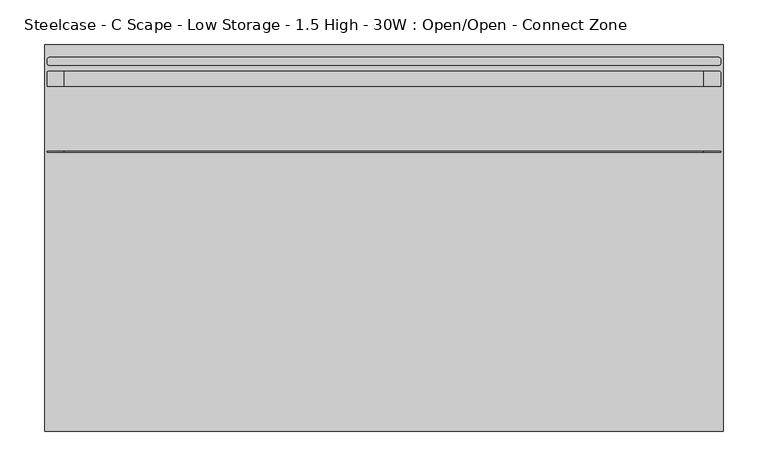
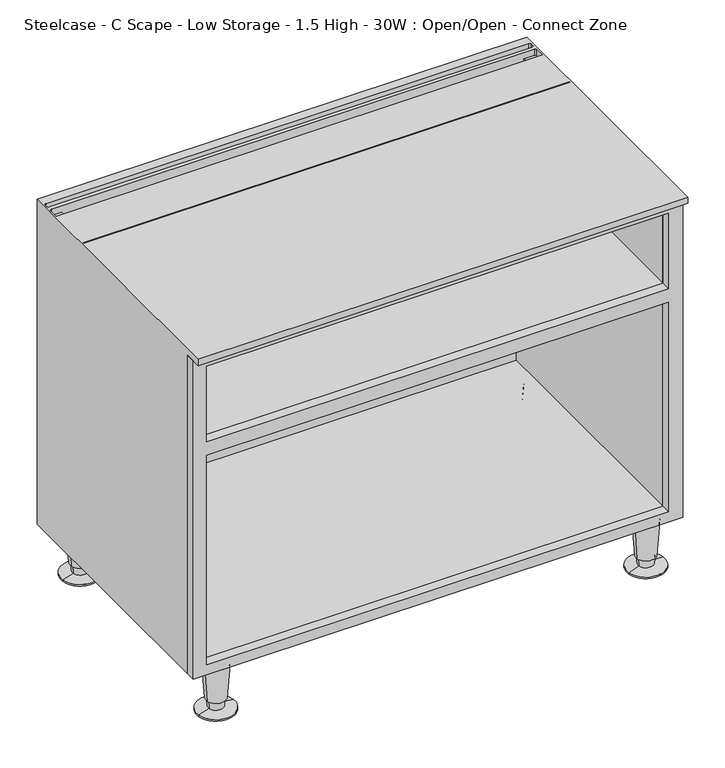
"""IFC4 building model written with IfcOpenShell, lengths in millimetres: furniture geometry, Steelcase - C Scape - Low Storage - 1.5 High - 30W : Open/Open - Connect Zone."""

from ifc_helpers import new_model, si_unit, frame, origin, place, context, project, spatial, polyline, circle_curve, outline, extrude, source, transform, mapped, element, save
from ifc_brep_helpers import plane_surface, cylinder_surface, revolved_surface, advanced_brep


def steelcase_c_scape_low_storage_1_5_high_30w_open_open_connect_0f973177(model_context):
    return source(origin(), model_context, "Body", "SolidModel", [
        extrude(outline(polyline([(599.4499291, 0.0), (76.2, 0.0), (76.2, 760.73), (599.4499291, 760.73), (599.4499291, 320.0585382), (599.4499291, 0.0)]), holes=[polyline([(458.7875121, 21.3382324), (582.9399291, 21.3382324), (582.9399291, 738.7617285), (458.7875121, 738.7617285), (458.7875121, 21.3382324)]), polyline([(436.841904, 21.3256814), (436.841904, 738.7617285), (92.7100024, 738.7617285), (92.7100024, 21.3256814), (436.841904, 21.3256814)])]), frame((0.0, -419.3540543, 0.0), z_axis=(0.0, 1.0, 0.0), x_axis=(0.0, 0.0, 1.0)), (0.0, 0.0, 1.0), 14.9860039),
        advanced_brep(
        [(65.5422821, -397.1702762, 76.2), (27.8805432, -402.9325174, 76.2), (46.7114126, -400.0513968, 76.2), (61.5919341, -397.774679, 19.05), (31.8308912, -402.3281146, 19.05), (59.1623471, -398.1464055, 19.05), (34.2604781, -401.9563882, 19.05), (58.4735776, -398.2517871, 5.7545598), (34.9492476, -401.8510065, 5.7545598), (75.8224611, -395.5974102, 2.5119506), (17.6003641, -404.5053834, 2.5119506), (75.8224611, -395.5974102, 0.0), (17.6003641, -404.5053834, 0.0), (46.7114126, -400.0513968, 0.0)],
        [
            (0, 1, circle_curve(frame((46.7114126, -400.0513968, 76.2), z_axis=(0.0, 0.0, 1.0), x_axis=(0.0, -1.0, 0.0)), 19.05)),
            (1, 2),
            (2, 0),
            (1, 0, circle_curve(frame((46.7114126, -400.0513968, 76.2), z_axis=(0.0, 0.0, 1.0), x_axis=(0.0, -1.0, 0.0)), 19.05)),
            (3, 4, circle_curve(frame((46.7114126, -400.0513968, 19.05), z_axis=(0.0, 0.0, 1.0), x_axis=(0.0, -1.0, 0.0)), 15.0536827)),
            (4, 1),
            (0, 3),
            (4, 3, circle_curve(frame((46.7114126, -400.0513968, 19.05), z_axis=(0.0, 0.0, 1.0), x_axis=(0.0, -1.0, 0.0)), 15.0536827)),
            (5, 6, circle_curve(frame((46.7114126, -400.0513968, 19.05), z_axis=(0.0, 0.0, 1.0), x_axis=(0.0, -1.0, 0.0)), 12.5958232)),
            (6, 4),
            (3, 5),
            (6, 5, circle_curve(frame((46.7114126, -400.0513968, 19.05), z_axis=(0.0, 0.0, 1.0), x_axis=(0.0, -1.0, 0.0)), 12.5958232)),
            (7, 8, circle_curve(frame((46.7114126, -400.0513968, 5.7545598), z_axis=(0.0, 0.0, 1.0), x_axis=(0.0, -1.0, 0.0)), 11.8990387)),
            (8, 6),
            (5, 7),
            (8, 7, circle_curve(frame((46.7114126, -400.0513968, 5.7545598), z_axis=(0.0, 0.0, 1.0), x_axis=(0.0, -1.0, 0.0)), 11.8990387)),
            (9, 10, circle_curve(frame((46.7114126, -400.0513968, 2.5119506), z_axis=(0.0, 0.0, 1.0), x_axis=(0.0, -1.0, 0.0)), 29.4498071)),
            (10, 8),
            (7, 9),
            (10, 9, circle_curve(frame((46.7114126, -400.0513968, 2.5119506), z_axis=(0.0, 0.0, 1.0), x_axis=(0.0, -1.0, 0.0)), 29.4498071)),
            (11, 12, circle_curve(frame((46.7114126, -400.0513968, 0.0), z_axis=(0.0, 0.0, 1.0), x_axis=(0.0, -1.0, 0.0)), 29.4498071)),
            (12, 10),
            (9, 11),
            (12, 11, circle_curve(frame((46.7114126, -400.0513968, 0.0), z_axis=(0.0, 0.0, 1.0), x_axis=(0.0, -1.0, 0.0)), 29.4498071)),
            (13, 12),
            (11, 13),
        ],
        [
            plane_surface(frame((46.7114126, -400.0513968, 76.2), z_axis=(0.0, 0.0, 1.0), x_axis=(0.0, -1.0, 0.0))),
            revolved_surface(polyline([(46.7114126, -419.1013968, 76.2), (46.7114126, -415.1050795, 19.05)]), (46.7114126, -400.0513968, 25.4), (0.0, 0.0, -1.0)),
            plane_surface(frame((46.7114126, -400.0513968, 19.05), z_axis=(0.0, 0.0, -1.0), x_axis=(0.0, -1.0, 0.0))),
            revolved_surface(polyline([(46.7114126, -412.64722, 19.05), (46.7114126, -411.9504355, 5.7545598)]), (46.7114126, -400.0513968, 25.4), (0.0, 0.0, -1.0)),
            revolved_surface(polyline([(46.7114126, -411.9504355, 5.7545598), (46.7114126, -429.5012039, 2.5119506)]), (46.7114126, -400.0513968, 25.4), (0.0, 0.0, -1.0)),
            cylinder_surface(frame((46.7114126, -400.0513968, 25.4), z_axis=(0.0, 0.0, -1.0), x_axis=(0.0, -1.0, 0.0)), 29.4498071),
            plane_surface(frame((46.7114126, -400.0513968, 0.0), z_axis=(0.0, 0.0, -1.0), x_axis=(0.0, -1.0, 0.0))),
        ],
        [
            (0, [[1, 2, 3]]),
            (0, [[4, -3, -2]]),
            (1, [[5, 6, -1, 7]]),
            (1, [[8, -7, -4, -6]]),
            (2, [[9, 10, -5, 11]]),
            (2, [[12, -11, -8, -10]]),
            (3, [[13, 14, -9, 15]]),
            (3, [[16, -15, -12, -14]]),
            (4, [[17, 18, -13, 19]]),
            (4, [[20, -19, -16, -18]]),
            (5, [[21, 22, -17, 23]]),
            (5, [[24, -23, -20, -22]]),
            (6, [[25, -21, 26]]),
            (6, [[-26, -24, -25]]),
        ],
    ),
        advanced_brep(
        [(733.4598695, -397.1702762, 76.2), (695.7981305, -402.9325174, 76.2), (714.629, -400.0513968, 76.2), (729.5095214, -397.774679, 19.05), (699.7484786, -402.3281146, 19.05), (727.0799345, -398.1464055, 19.05), (702.1780655, -401.9563882, 19.05), (726.391165, -398.2517871, 5.7545598), (702.866835, -401.8510065, 5.7545598), (743.7400485, -395.5974102, 2.5119506), (685.5179515, -404.5053834, 2.5119506), (743.7400485, -395.5974102, 0.0), (685.5179515, -404.5053834, 0.0), (714.629, -400.0513968, 0.0)],
        [
            (0, 1, circle_curve(frame((714.629, -400.0513968, 76.2), z_axis=(0.0, 0.0, 1.0), x_axis=(0.0, -1.0, 0.0)), 19.05)),
            (1, 2),
            (2, 0),
            (1, 0, circle_curve(frame((714.629, -400.0513968, 76.2), z_axis=(0.0, 0.0, 1.0), x_axis=(0.0, -1.0, 0.0)), 19.05)),
            (3, 4, circle_curve(frame((714.629, -400.0513968, 19.05), z_axis=(0.0, 0.0, 1.0), x_axis=(0.0, -1.0, 0.0)), 15.0536827)),
            (4, 1),
            (0, 3),
            (4, 3, circle_curve(frame((714.629, -400.0513968, 19.05), z_axis=(0.0, 0.0, 1.0), x_axis=(0.0, -1.0, 0.0)), 15.0536827)),
            (5, 6, circle_curve(frame((714.629, -400.0513968, 19.05), z_axis=(0.0, 0.0, 1.0), x_axis=(0.0, -1.0, 0.0)), 12.5958232)),
            (6, 4),
            (3, 5),
            (6, 5, circle_curve(frame((714.629, -400.0513968, 19.05), z_axis=(0.0, 0.0, 1.0), x_axis=(0.0, -1.0, 0.0)), 12.5958232)),
            (7, 8, circle_curve(frame((714.629, -400.0513968, 5.7545598), z_axis=(0.0, 0.0, 1.0), x_axis=(0.0, -1.0, 0.0)), 11.8990387)),
            (8, 6),
            (5, 7),
            (8, 7, circle_curve(frame((714.629, -400.0513968, 5.7545598), z_axis=(0.0, 0.0, 1.0), x_axis=(0.0, -1.0, 0.0)), 11.8990387)),
            (9, 10, circle_curve(frame((714.629, -400.0513968, 2.5119506), z_axis=(0.0, 0.0, 1.0), x_axis=(0.0, -1.0, 0.0)), 29.4498071)),
            (10, 8),
            (7, 9),
            (10, 9, circle_curve(frame((714.629, -400.0513968, 2.5119506), z_axis=(0.0, 0.0, 1.0), x_axis=(0.0, -1.0, 0.0)), 29.4498071)),
            (11, 12, circle_curve(frame((714.629, -400.0513968, 0.0), z_axis=(0.0, 0.0, 1.0), x_axis=(0.0, -1.0, 0.0)), 29.4498071)),
            (12, 10),
            (9, 11),
            (12, 11, circle_curve(frame((714.629, -400.0513968, 0.0), z_axis=(0.0, 0.0, 1.0), x_axis=(0.0, -1.0, 0.0)), 29.4498071)),
            (13, 12),
            (11, 13),
        ],
        [
            plane_surface(frame((714.629, -400.0513968, 76.2), z_axis=(0.0, 0.0, 1.0), x_axis=(0.0, -1.0, 0.0))),
            revolved_surface(polyline([(714.629, -419.1013968, 76.2), (714.629, -415.1050795, 19.05)]), (714.629, -400.0513968, 25.4), (0.0, 0.0, -1.0)),
            plane_surface(frame((714.629, -400.0513968, 19.05), z_axis=(0.0, 0.0, -1.0), x_axis=(0.0, -1.0, 0.0))),
            revolved_surface(polyline([(714.629, -412.64722, 19.05), (714.629, -411.9504355, 5.7545598)]), (714.629, -400.0513968, 25.4), (0.0, 0.0, -1.0)),
            revolved_surface(polyline([(714.629, -411.9504355, 5.7545598), (714.629, -429.5012039, 2.5119506)]), (714.629, -400.0513968, 25.4), (0.0, 0.0, -1.0)),
            cylinder_surface(frame((714.629, -400.0513968, 25.4), z_axis=(0.0, 0.0, -1.0), x_axis=(0.0, -1.0, 0.0)), 29.4498071),
            plane_surface(frame((714.629, -400.0513968, 0.0), z_axis=(0.0, 0.0, -1.0), x_axis=(0.0, -1.0, 0.0))),
        ],
        [
            (0, [[1, 2, 3]]),
            (0, [[4, -3, -2]]),
            (1, [[5, 6, -1, 7]]),
            (1, [[8, -7, -4, -6]]),
            (2, [[9, 10, -5, 11]]),
            (2, [[12, -11, -8, -10]]),
            (3, [[13, 14, -9, 15]]),
            (3, [[16, -15, -12, -14]]),
            (4, [[17, 18, -13, 19]]),
            (4, [[20, -19, -16, -18]]),
            (5, [[21, 22, -17, 23]]),
            (5, [[24, -23, -20, -22]]),
            (6, [[25, -21, 26]]),
            (6, [[-26, -24, -25]]),
        ],
    ),
        advanced_brep(
        [(733.4598695, -31.5218435, 76.2), (695.7981305, -37.2840847, 76.2), (714.629, -34.4029641, 76.2), (729.5095214, -32.1262463, 19.05), (699.7484786, -36.6796819, 19.05), (727.0799345, -32.4979728, 19.05), (702.1780655, -36.3079555, 19.05), (726.391165, -32.6033544, 5.7545598), (702.866835, -36.2025738, 5.7545598), (743.7400485, -29.9489775, 2.5119506), (685.5179515, -38.8569507, 2.5119506), (743.7400485, -29.9489775, 0.0), (685.5179515, -38.8569507, 0.0), (714.629, -34.4029641, 0.0)],
        [
            (0, 1, circle_curve(frame((714.629, -34.4029641, 76.2), z_axis=(0.0, 0.0, 1.0), x_axis=(0.0, -1.0, 0.0)), 19.05)),
            (1, 2),
            (2, 0),
            (1, 0, circle_curve(frame((714.629, -34.4029641, 76.2), z_axis=(0.0, 0.0, 1.0), x_axis=(0.0, -1.0, 0.0)), 19.05)),
            (3, 4, circle_curve(frame((714.629, -34.4029641, 19.05), z_axis=(0.0, 0.0, 1.0), x_axis=(0.0, -1.0, 0.0)), 15.0536827)),
            (4, 1),
            (0, 3),
            (4, 3, circle_curve(frame((714.629, -34.4029641, 19.05), z_axis=(0.0, 0.0, 1.0), x_axis=(0.0, -1.0, 0.0)), 15.0536827)),
            (5, 6, circle_curve(frame((714.629, -34.4029641, 19.05), z_axis=(0.0, 0.0, 1.0), x_axis=(0.0, -1.0, 0.0)), 12.5958232)),
            (6, 4),
            (3, 5),
            (6, 5, circle_curve(frame((714.629, -34.4029641, 19.05), z_axis=(0.0, 0.0, 1.0), x_axis=(0.0, -1.0, 0.0)), 12.5958232)),
            (7, 8, circle_curve(frame((714.629, -34.4029641, 5.7545598), z_axis=(0.0, 0.0, 1.0), x_axis=(0.0, -1.0, 0.0)), 11.8990387)),
            (8, 6),
            (5, 7),
            (8, 7, circle_curve(frame((714.629, -34.4029641, 5.7545598), z_axis=(0.0, 0.0, 1.0), x_axis=(0.0, -1.0, 0.0)), 11.8990387)),
            (9, 10, circle_curve(frame((714.629, -34.4029641, 2.5119506), z_axis=(0.0, 0.0, 1.0), x_axis=(0.0, -1.0, 0.0)), 29.4498071)),
            (10, 8),
            (7, 9),
            (10, 9, circle_curve(frame((714.629, -34.4029641, 2.5119506), z_axis=(0.0, 0.0, 1.0), x_axis=(0.0, -1.0, 0.0)), 29.4498071)),
            (11, 12, circle_curve(frame((714.629, -34.4029641, 0.0), z_axis=(0.0, 0.0, 1.0), x_axis=(0.0, -1.0, 0.0)), 29.4498071)),
            (12, 10),
            (9, 11),
            (12, 11, circle_curve(frame((714.629, -34.4029641, 0.0), z_axis=(0.0, 0.0, 1.0), x_axis=(0.0, -1.0, 0.0)), 29.4498071)),
            (13, 12),
            (11, 13),
        ],
        [
            plane_surface(frame((714.629, -34.4029641, 76.2), z_axis=(0.0, 0.0, 1.0), x_axis=(0.0, -1.0, 0.0))),
            revolved_surface(polyline([(714.629, -53.4529641, 76.2), (714.629, -49.4566468, 19.05)]), (714.629, -34.4029641, 25.4), (0.0, 0.0, -1.0)),
            plane_surface(frame((714.629, -34.4029641, 19.05), z_axis=(0.0, 0.0, -1.0), x_axis=(0.0, -1.0, 0.0))),
            revolved_surface(polyline([(714.629, -46.9987873, 19.05), (714.629, -46.3020028, 5.7545598)]), (714.629, -34.4029641, 25.4), (0.0, 0.0, -1.0)),
            revolved_surface(polyline([(714.629, -46.3020028, 5.7545598), (714.629, -63.8527712, 2.5119506)]), (714.629, -34.4029641, 25.4), (0.0, 0.0, -1.0)),
            cylinder_surface(frame((714.629, -34.4029641, 25.4), z_axis=(0.0, 0.0, -1.0), x_axis=(0.0, -1.0, 0.0)), 29.4498071),
            plane_surface(frame((714.629, -34.4029641, 0.0), z_axis=(0.0, 0.0, -1.0), x_axis=(0.0, -1.0, 0.0))),
        ],
        [
            (0, [[1, 2, 3]]),
            (0, [[4, -3, -2]]),
            (1, [[5, 6, -1, 7]]),
            (1, [[8, -7, -4, -6]]),
            (2, [[9, 10, -5, 11]]),
            (2, [[12, -11, -8, -10]]),
            (3, [[13, 14, -9, 15]]),
            (3, [[16, -15, -12, -14]]),
            (4, [[17, 18, -13, 19]]),
            (4, [[20, -19, -16, -18]]),
            (5, [[21, 22, -17, 23]]),
            (5, [[24, -23, -20, -22]]),
            (6, [[25, -21, 26]]),
            (6, [[-26, -24, -25]]),
        ],
    ),
        advanced_brep(
        [(65.5422821, -31.5218435, 76.2), (27.8805432, -37.2840847, 76.2), (46.7114126, -34.4029641, 76.2), (61.5919341, -32.1262463, 19.05), (31.8308912, -36.6796819, 19.05), (59.1623471, -32.4979728, 19.05), (34.2604781, -36.3079555, 19.05), (58.4735776, -32.6033544, 5.7545598), (34.9492476, -36.2025738, 5.7545598), (75.8224611, -29.9489775, 2.5119506), (17.6003641, -38.8569507, 2.5119506), (75.8224611, -29.9489775, 0.0), (17.6003641, -38.8569507, 0.0), (46.7114126, -34.4029641, 0.0)],
        [
            (0, 1, circle_curve(frame((46.7114126, -34.4029641, 76.2), z_axis=(0.0, 0.0, 1.0), x_axis=(0.0, -1.0, 0.0)), 19.05)),
            (1, 2),
            (2, 0),
            (1, 0, circle_curve(frame((46.7114126, -34.4029641, 76.2), z_axis=(0.0, 0.0, 1.0), x_axis=(0.0, -1.0, 0.0)), 19.05)),
            (3, 4, circle_curve(frame((46.7114126, -34.4029641, 19.05), z_axis=(0.0, 0.0, 1.0), x_axis=(0.0, -1.0, 0.0)), 15.0536827)),
            (4, 1),
            (0, 3),
            (4, 3, circle_curve(frame((46.7114126, -34.4029641, 19.05), z_axis=(0.0, 0.0, 1.0), x_axis=(0.0, -1.0, 0.0)), 15.0536827)),
            (5, 6, circle_curve(frame((46.7114126, -34.4029641, 19.05), z_axis=(0.0, 0.0, 1.0), x_axis=(0.0, -1.0, 0.0)), 12.5958232)),
            (6, 4),
            (3, 5),
            (6, 5, circle_curve(frame((46.7114126, -34.4029641, 19.05), z_axis=(0.0, 0.0, 1.0), x_axis=(0.0, -1.0, 0.0)), 12.5958232)),
            (7, 8, circle_curve(frame((46.7114126, -34.4029641, 5.7545598), z_axis=(0.0, 0.0, 1.0), x_axis=(0.0, -1.0, 0.0)), 11.8990387)),
            (8, 6),
            (5, 7),
            (8, 7, circle_curve(frame((46.7114126, -34.4029641, 5.7545598), z_axis=(0.0, 0.0, 1.0), x_axis=(0.0, -1.0, 0.0)), 11.8990387)),
            (9, 10, circle_curve(frame((46.7114126, -34.4029641, 2.5119506), z_axis=(0.0, 0.0, 1.0), x_axis=(0.0, -1.0, 0.0)), 29.4498071)),
            (10, 8),
            (7, 9),
            (10, 9, circle_curve(frame((46.7114126, -34.4029641, 2.5119506), z_axis=(0.0, 0.0, 1.0), x_axis=(0.0, -1.0, 0.0)), 29.4498071)),
            (11, 12, circle_curve(frame((46.7114126, -34.4029641, 0.0), z_axis=(0.0, 0.0, 1.0), x_axis=(0.0, -1.0, 0.0)), 29.4498071)),
            (12, 10),
            (9, 11),
            (12, 11, circle_curve(frame((46.7114126, -34.4029641, 0.0), z_axis=(0.0, 0.0, 1.0), x_axis=(0.0, -1.0, 0.0)), 29.4498071)),
            (13, 12),
            (11, 13),
        ],
        [
            plane_surface(frame((46.7114126, -34.4029641, 76.2), z_axis=(0.0, 0.0, 1.0), x_axis=(0.0, -1.0, 0.0))),
            revolved_surface(polyline([(46.7114126, -53.4529641, 76.2), (46.7114126, -49.4566468, 19.05)]), (46.7114126, -34.4029641, 25.4), (0.0, 0.0, -1.0)),
            plane_surface(frame((46.7114126, -34.4029641, 19.05), z_axis=(0.0, 0.0, -1.0), x_axis=(0.0, -1.0, 0.0))),
            revolved_surface(polyline([(46.7114126, -46.9987873, 19.05), (46.7114126, -46.3020028, 5.7545598)]), (46.7114126, -34.4029641, 25.4), (0.0, 0.0, -1.0)),
            revolved_surface(polyline([(46.7114126, -46.3020028, 5.7545598), (46.7114126, -63.8527712, 2.5119506)]), (46.7114126, -34.4029641, 25.4), (0.0, 0.0, -1.0)),
            cylinder_surface(frame((46.7114126, -34.4029641, 25.4), z_axis=(0.0, 0.0, -1.0), x_axis=(0.0, -1.0, 0.0)), 29.4498071),
            plane_surface(frame((46.7114126, -34.4029641, 0.0), z_axis=(0.0, 0.0, -1.0), x_axis=(0.0, -1.0, 0.0))),
        ],
        [
            (0, [[1, 2, 3]]),
            (0, [[4, -3, -2]]),
            (1, [[5, 6, -1, 7]]),
            (1, [[8, -7, -4, -6]]),
            (2, [[9, 10, -5, 11]]),
            (2, [[12, -11, -8, -10]]),
            (3, [[13, 14, -9, 15]]),
            (3, [[16, -15, -12, -14]]),
            (4, [[17, 18, -13, 19]]),
            (4, [[20, -19, -16, -18]]),
            (5, [[21, 22, -17, 23]]),
            (5, [[24, -23, -20, -22]]),
            (6, [[25, -21, 26]]),
            (6, [[-26, -24, -25]]),
        ],
    ),
        advanced_brep(
        [(757.9272317, -120.6444193, 609.6), (757.9272317, -119.3775195, 609.6), (757.9272317, -119.3775195, 599.4499291), (757.9272317, -120.6444193, 599.4499291), (757.9272317, -46.4703418, 609.6), (757.9272317, -32.274699, 609.6), (757.9272317, -32.274699, 599.4499291), (757.9272317, -46.4703418, 599.4499291), (757.9272317, -20.3138654, 609.6), (757.9272317, -17.0388453, 609.6), (757.9272317, -17.0388453, 599.4499291), (757.9272317, -20.3138654, 599.4499291), (760.73, 0.0055807, 609.6), (760.73, -433.07, 609.6), (760.73, -433.07, 599.4499291), (760.73, -404.3680504, 599.4499291), (760.73, -404.3680504, 76.2), (760.73, 0.0, 76.2), (0.0, -433.07, 609.6), (-0.012551, 0.0055807, 609.6), (755.2308823, -29.5783496, 609.6), (2.7826272, -46.4703418, 609.6), (2.7826272, -32.0458511, 609.6), (5.2501287, -29.5783496, 609.6), (754.9507358, -23.2903613, 609.6), (5.5670648, -23.2903613, 609.6), (2.7826272, -20.5059237, 609.6), (2.7826272, -17.0388453, 609.6), (5.4794022, -14.3420703, 609.6), (755.2304567, -14.3420703, 609.6), (2.7826272, -119.3775195, 609.6), (2.7826272, -120.6444193, 609.6), (0.0, 0.0055807, 76.2), (495.6775189, 0.0055807, 466.2677968), (264.4174811, 0.0055807, 466.2677968), (264.4174811, 0.0055807, 432.6382043), (380.0475, 0.0055807, 432.6382043), (495.6775189, 0.0055807, 432.6382043), (495.6775189, -9.5194193, 466.2677968), (264.4174811, -9.5194193, 466.2677968), (495.6775189, -9.5194193, 450.8499879), (264.4174811, -9.5194193, 450.8499879), (5.2501287, -29.5783496, 599.4499291), (21.3256814, -29.5783496, 599.4499291), (21.3256814, -29.5783496, 458.7875121), (738.7491775, -29.5783496, 458.7875121), (738.7491775, -29.5783496, 599.4499291), (755.2308823, -29.5783496, 599.4499291), (738.7491775, -119.3775195, 599.4499291), (21.3256814, -119.3775195, 599.4499291), (21.3256814, -46.4703418, 599.4499291), (738.7491775, -46.4703418, 599.4499291), (754.9507358, -23.2903613, 599.4499291), (5.5670648, -23.2903613, 599.4499291), (2.7826272, -20.5059237, 599.4499291), (2.7826272, -32.0458511, 599.4499291), (2.7826272, -46.4703418, 599.4499291), (2.7826272, -119.3775195, 599.4499291), (5.4794022, -14.3420703, 599.4499291), (755.2304567, -14.3420703, 599.4499291), (2.7826272, -17.0388453, 599.4499291), (21.3256814, -120.6444193, 599.4499291), (2.7826272, -120.6444193, 599.4499291), (738.7491775, -120.6444193, 599.4499291), (21.3256814, -404.3680504, 92.7100024), (738.7491775, -404.3680504, 92.7100024), (738.7491775, -9.5194193, 92.7100024), (21.3256814, -9.5194193, 92.7100024), (0.0, -404.3680504, 76.2), (0.0, -404.3680504, 599.4499291), (0.0, -433.07, 599.4499291), (738.7491775, -404.3680504, 599.4499291), (738.7491775, -404.3680504, 458.7875121), (21.3256814, -404.3680504, 458.7875121), (21.3256814, -404.3680504, 599.4499291), (21.3256814, -404.3680504, 450.8499879), (738.7491775, -404.3680504, 450.8499879), (21.3256814, -126.9863574, 599.4499291), (738.7491775, -126.9863574, 599.4499291), (21.3256814, -126.9863574, 458.7875121), (738.7491775, -126.9863574, 458.7875121), (738.7491775, -120.6444193, 458.7875121), (21.3256814, -120.6444193, 458.7875121), (21.3256814, -9.5194193, 450.8499879), (738.7491775, -9.5194193, 450.8499879), (495.6775189, -9.5194193, 432.6382043), (380.0475, -9.5194193, 432.6382043), (264.4174811, -9.5194193, 432.6382043)],
        [
            (0, 1),
            (1, 2),
            (2, 3),
            (3, 0),
            (4, 5),
            (5, 6),
            (6, 7),
            (7, 4),
            (8, 9),
            (9, 10),
            (10, 11),
            (11, 8),
            (12, 13),
            (13, 14),
            (14, 15),
            (15, 16),
            (16, 17),
            (17, 12),
            (18, 13),
            (12, 19),
            (19, 18),
            (20, 5, circle_curve(frame((755.2308823, -32.274699, 609.6), z_axis=(0.0, 0.0, -1.0), x_axis=(1.0, 0.0, 0.0)), 2.6963494)),
            (4, 21),
            (21, 22),
            (22, 23, circle_curve(frame((5.2501287, -32.0458511, 609.6), z_axis=(0.0, 0.0, -1.0), x_axis=(1.0, 0.0, 0.0)), 2.4675015)),
            (23, 20),
            (8, 24, circle_curve(frame((754.9507358, -20.3138654, 609.6), z_axis=(0.0, 0.0, -1.0), x_axis=(1.0, 0.0, 0.0)), 2.9764959)),
            (24, 25),
            (25, 26, circle_curve(frame((5.5670648, -20.5059237, 609.6), z_axis=(0.0, 0.0, -1.0), x_axis=(1.0, 0.0, 0.0)), 2.7844376)),
            (26, 27),
            (27, 28, circle_curve(frame((5.4794022, -17.0388453, 609.6), z_axis=(0.0, 0.0, -1.0), x_axis=(1.0, 0.0, 0.0)), 2.696775)),
            (28, 29),
            (29, 9, circle_curve(frame((755.2304567, -17.0388453, 609.6), z_axis=(0.0, 0.0, -1.0), x_axis=(1.0, 0.0, 0.0)), 2.696775)),
            (30, 1),
            (0, 31),
            (31, 30),
            (17, 32),
            (32, 19),
            (33, 34),
            (34, 35),
            (35, 36),
            (36, 37),
            (37, 33),
            (33, 38),
            (38, 39),
            (39, 34),
            (38, 40),
            (40, 41),
            (41, 39),
            (23, 42),
            (42, 43),
            (43, 44),
            (44, 45),
            (45, 46),
            (46, 47),
            (47, 20),
            (48, 49),
            (49, 50),
            (50, 51),
            (51, 48),
            (47, 6, circle_curve(frame((755.2308823, -32.274699, 599.4499291), z_axis=(0.0, 0.0, -1.0), x_axis=(1.0, 0.0, 0.0)), 2.6963494)),
            (11, 52, circle_curve(frame((754.9507358, -20.3138654, 599.4499291), z_axis=(0.0, 0.0, -1.0), x_axis=(1.0, 0.0, 0.0)), 2.9764959)),
            (52, 24),
            (52, 53),
            (53, 25),
            (53, 54, circle_curve(frame((5.5670648, -20.5059237, 599.4499291), z_axis=(0.0, 0.0, -1.0), x_axis=(1.0, 0.0, 0.0)), 2.7844376)),
            (54, 26),
            (22, 55),
            (55, 42, circle_curve(frame((5.2501287, -32.0458511, 599.4499291), z_axis=(0.0, 0.0, -1.0), x_axis=(1.0, 0.0, 0.0)), 2.4675015)),
            (7, 51),
            (50, 56),
            (56, 21),
            (30, 57),
            (57, 49),
            (48, 2),
            (28, 58),
            (58, 59),
            (59, 29),
            (59, 10, circle_curve(frame((755.2304567, -17.0388453, 599.4499291), z_axis=(0.0, 0.0, -1.0), x_axis=(1.0, 0.0, 0.0)), 2.696775)),
            (27, 60),
            (60, 58, circle_curve(frame((5.4794022, -17.0388453, 599.4499291), z_axis=(0.0, 0.0, -1.0), x_axis=(1.0, 0.0, 0.0)), 2.696775)),
            (61, 49),
            (57, 62),
            (62, 61),
            (48, 63),
            (63, 3),
            (60, 54),
            (50, 43),
            (55, 56),
            (46, 51),
            (64, 65),
            (65, 66),
            (66, 67),
            (67, 64),
            (16, 68),
            (68, 32),
            (68, 69),
            (69, 70),
            (70, 18),
            (15, 71),
            (71, 72),
            (72, 73),
            (73, 74),
            (74, 69),
            (64, 75),
            (75, 76),
            (76, 65),
            (70, 14),
            (74, 77),
            (77, 78),
            (78, 71),
            (77, 79),
            (79, 80),
            (80, 78),
            (63, 81),
            (81, 82),
            (82, 61),
            (62, 31),
            (44, 82),
            (81, 45),
            (79, 73),
            (72, 80),
            (75, 83),
            (83, 41),
            (40, 84),
            (84, 76),
            (67, 83),
            (84, 66),
            (85, 86),
            (86, 87),
            (87, 41),
            (40, 85),
            (37, 85),
            (36, 86),
            (35, 87),
        ],
        [
            plane_surface(frame((757.9272317, -120.6444193, 609.6), z_axis=(-1.0, 0.0, 0.0), x_axis=(0.0, -1.4185860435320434e-12, 1.0))),
            plane_surface(frame((760.73, -120.6444193, 609.6), z_axis=(1.0, 0.0, 0.0), x_axis=(0.0, 1.4185860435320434e-12, -1.0))),
            plane_surface(frame((757.9272317, -120.6444193, 609.6), z_axis=(0.0, 0.0, 1.0), x_axis=(1.0, 0.0, 0.0))),
            plane_surface(frame((757.9272317, 0.0055807, 609.6), z_axis=(0.0, 1.0, 0.0), x_axis=(1.0, 0.0, 0.0))),
            plane_surface(frame((757.9272317, 0.0055807, 466.2677968), z_axis=(0.0, 0.0, -1.0), x_axis=(1.0, 0.0, 0.0))),
            plane_surface(frame((757.9272317, -9.5194193, 466.2677968), z_axis=(0.0, 1.0, 0.0), x_axis=(1.0, 0.0, 0.0))),
            plane_surface(frame((757.9272317, -29.5783496, 458.7875121), z_axis=(0.0, -1.0, 0.0), x_axis=(1.0, 0.0, 0.0))),
            plane_surface(frame((757.9272317, -29.5783496, 599.4499291), z_axis=(0.0, 0.0, -1.0), x_axis=(1.0, 0.0, 0.0))),
            revolved_surface(polyline([(757.9272317, -32.274699, 599.4499291), (757.9272317, -32.274699, 609.6)]), (755.2308823, -32.274699, 599.4499291), (0.0, 0.0, -1.0)),
            revolved_surface(polyline([(757.9272317, -20.3138654, 599.4499291), (757.9272317, -20.3138654, 609.6)]), (754.9507358, -20.3138654, 599.4499291), (0.0, 0.0, -1.0)),
            plane_surface(frame((754.9507358, -23.2903613, 609.6), z_axis=(0.0, 1.0, 0.0), x_axis=(0.0, 0.0, -1.0))),
            revolved_surface(polyline([(8.3515024, -20.5059237, 599.4499291), (8.3515024, -20.5059237, 609.6)]), (5.5670648, -20.5059237, 599.4499291), (0.0, 0.0, -1.0)),
            revolved_surface(polyline([(7.7176302, -32.0458511, 599.4499291), (7.7176302, -32.0458511, 609.6)]), (5.2501287, -32.0458511, 599.4499291), (0.0, 0.0, -1.0)),
            plane_surface(frame((757.9272317, -46.4703418, 609.6), z_axis=(0.0, 1.0, 0.0), x_axis=(0.0, 0.0, -1.0))),
            plane_surface(frame((2.7826272, -119.3775195, 609.6), z_axis=(0.0, -1.0, 0.0), x_axis=(0.0, 0.0, -1.0))),
            plane_surface(frame((5.4794022, -14.3420703, 609.6), z_axis=(0.0, -1.0, 0.0), x_axis=(0.0, 0.0, -1.0))),
            revolved_surface(polyline([(757.9272317, -17.0388453, 599.4499291), (757.9272317, -17.0388453, 609.6)]), (755.2304567, -17.0388453, 41.6295811), (0.0, 0.0, -1.0)),
            revolved_surface(polyline([(8.1761772, -17.0388453, 599.4499291), (8.1761772, -17.0388453, 609.6)]), (5.4794022, -17.0388453, 41.6295811), (0.0, 0.0, -1.0)),
            plane_surface(frame((757.9272317, 0.0055807, 599.4499291), z_axis=(0.0, 0.0, 1.0), x_axis=(-1.0, 0.0, 0.0))),
            plane_surface(frame((0.0, 0.0, 92.7100024), z_axis=(0.0, 0.0, 1.0), x_axis=(-1.0, 0.0, 0.0))),
            plane_surface(frame((0.0, 0.0, 76.2), z_axis=(0.0, 0.0, -1.0), x_axis=(1.0, 0.0, 0.0))),
            plane_surface(frame((0.0, 0.0, 92.7100024), z_axis=(-1.0, 0.0, 0.0), x_axis=(0.0, 0.0, -1.0))),
            plane_surface(frame((0.0, -404.3680504, 92.7100024), z_axis=(0.0, -1.0, 0.0), x_axis=(0.0, 0.0, -1.0))),
            plane_surface(frame((760.73, -433.07, 609.6), z_axis=(0.0, -1.0, 0.0), x_axis=(-1.0, 0.0, 0.0))),
            plane_surface(frame((760.73, -433.07, 599.4499291), z_axis=(0.0, 0.0, -1.0), x_axis=(-1.0, 0.0, 0.0))),
            plane_surface(frame((760.73, -126.9863574, 599.4499291), z_axis=(0.0, -1.0, 0.0), x_axis=(-1.0, 0.0, 0.0))),
            plane_surface(frame((760.73, -120.6444193, 457.1999955), z_axis=(0.0, 1.0, 0.0), x_axis=(-1.0, 0.0, 0.0))),
            plane_surface(frame((0.0, -9.5194193, 458.7875121), z_axis=(0.0, 0.0, 1.0), x_axis=(-1.0, 0.0, 0.0))),
            plane_surface(frame((0.0, -9.5194193, 450.8499879), z_axis=(0.0, 0.0, -1.0), x_axis=(1.0, 0.0, 0.0))),
            plane_surface(frame((21.3256814, -404.3680504, 599.4499291), z_axis=(1.0, 0.0, 0.0), x_axis=(0.0, 0.0, -1.0))),
            plane_surface(frame((738.7491775, -9.5194193, 599.4499291), z_axis=(-1.0, 0.0, 0.0), x_axis=(0.0, 0.0, -1.0))),
            plane_surface(frame((2.7826272, -120.6444193, 599.4499291), z_axis=(1.0, 0.0, 0.0), x_axis=(0.0, 1.0, 0.0))),
            plane_surface(frame((495.6775189, -9.5194193, 459.9177968), z_axis=(0.0, -1.0, 0.0), x_axis=(0.0, 0.0, -1.0))),
            plane_surface(frame((495.6775189, -9.5194193, 466.2677968), z_axis=(-1.0, 0.0, 0.0), x_axis=(0.0, 1.0, 0.0))),
            plane_surface(frame((495.6775189, -9.5194193, 432.6382043), z_axis=(0.0, 0.0, 1.0), x_axis=(0.0, 1.0, 0.0))),
            plane_surface(frame((380.0475, -9.5194193, 432.6382043), z_axis=(0.0, 0.0, 1.0), x_axis=(0.0, 1.0, 0.0))),
            plane_surface(frame((264.4174811, -9.5194193, 432.6382043), z_axis=(1.0, 0.0, 0.0), x_axis=(0.0, 1.0, 0.0))),
        ],
        [
            (0, [[1, 2, 3, 4]]),
            (0, [[5, 6, 7, 8]]),
            (0, [[9, 10, 11, 12]]),
            (1, [[13, 14, 15, 16, 17, 18]]),
            (2, [[19, -13, 20, 21], [22, -5, 23, 24, 25, 26], [27, 28, 29, 30, 31, 32, 33, -9], [34, -1, 35, 36]]),
            (3, [[-18, 37, 38, -20], [39, 40, 41, 42, 43]]),
            (4, [[-39, 44, 45, 46]]),
            (5, [[-45, 47, 48, 49]]),
            (6, [[-26, 50, 51, 52, 53, 54, 55, 56]]),
            (7, [[57, 58, 59, 60]]),
            (8, [[-22, -56, 61, -6]]),
            (9, [[-27, -12, 62, 63]]),
            (10, [[-28, -63, 64, 65]]),
            (11, [[-29, -65, 66, 67]]),
            (12, [[-25, 68, 69, -50]]),
            (13, [[-23, -8, 70, -59, 71, 72]]),
            (14, [[-34, 73, 74, -57, 75, -2]]),
            (15, [[-32, 76, 77, 78]]),
            (16, [[-33, -78, 79, -10]]),
            (17, [[-31, 80, 81, -76]]),
            (18, [[82, -74, 83, 84]]),
            (18, [[85, 86, -3, -75]]),
            (18, [[-11, -79, -77, -81, 87, -66, -64, -62]]),
            (18, [[88, -51, -69, 89, -71]]),
            (18, [[90, -70, -7, -61, -55]]),
            (19, [[91, 92, 93, 94]]),
            (20, [[-17, 95, 96, -37]]),
            (21, [[-38, -96, 97, 98, 99, -21]]),
            (22, [[-95, -16, 100, 101, 102, 103, 104, -97], [-91, 105, 106, 107]]),
            (23, [[-14, -19, -99, 108]]),
            (24, [[-108, -98, -104, 109, 110, 111, -100, -15]]),
            (25, [[-110, 112, 113, 114]]),
            (26, [[-4, -86, 115, 116, 117, -84, 118, -35]]),
            (27, [[-53, 119, -116, 120]]),
            (27, [[-113, 121, -102, 122]]),
            (28, [[-106, 123, 124, -48, 125, 126]]),
            (29, [[-103, -121, -112, -109]]),
            (29, [[-105, -94, 127, -123]]),
            (29, [[-88, -58, -82, -117, -119, -52]]),
            (30, [[-101, -111, -114, -122]]),
            (30, [[-107, -126, 128, -92]]),
            (30, [[-90, -54, -120, -115, -85, -60]]),
            (31, [[-24, -72, -89, -68]]),
            (31, [[-30, -67, -87, -80]]),
            (31, [[-36, -118, -83, -73]]),
            (32, [[129, 130, 131, -124, -127, -93, -128, -125, 132]]),
            (33, [[-43, 133, -132, -47, -44]]),
            (34, [[-129, -133, -42, 134]]),
            (35, [[-130, -134, -41, 135]]),
            (36, [[-40, -46, -49, -131, -135]]),
        ],
    ),
    ])


if __name__ == "__main__":
    model = new_model("IFC4")
    model_context = context("Model", 3, world=origin())
    ifc_project = project(units=[si_unit("LENGTHUNIT", "METRE", prefix="MILLI")], contexts=[model_context])
    site = spatial("IfcSite", under=ifc_project)
    building = spatial("IfcBuilding", under=site)
    placement = place(None, origin())
    steelcase_c_scape_low_storage_1_5_high_30w_open_open_connect_shape = steelcase_c_scape_low_storage_1_5_high_30w_open_open_connect_0f973177(model_context)
    element("IfcFurniture", 1, ObjectType="Steelcase - C Scape - Low Storage - 1.5 High - 30W : Open/Open - Connect Zone", at=placement, inside=building, context=model_context, shape_type="MappedRepresentation", body=[
        mapped(steelcase_c_scape_low_storage_1_5_high_30w_open_open_connect_shape, transform((0.0, 0.0, 0.0), x_axis=(1.0, 0.0, 0.0), y_axis=(0.0, 1.0, 0.0), z_axis=(0.0, 0.0, 1.0))),
    ])
    save(model, "model.ifc")
